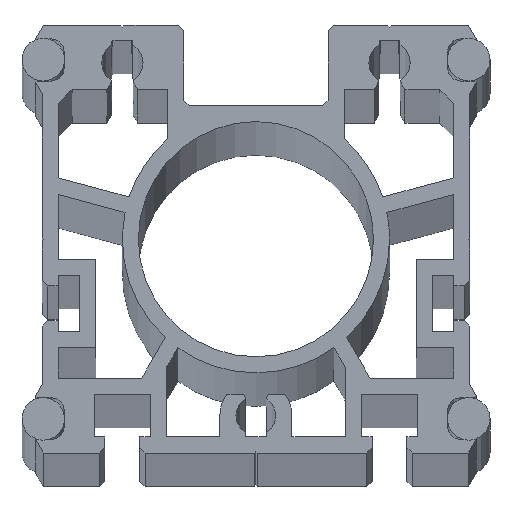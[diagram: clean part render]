
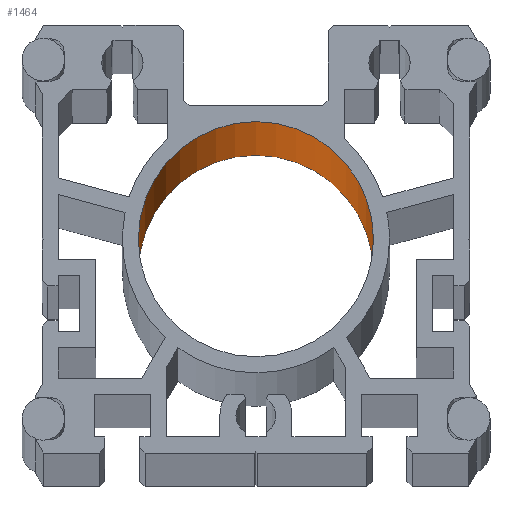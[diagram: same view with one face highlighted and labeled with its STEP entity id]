
A CAD part, top view. The second image highlights one B-rep face of the part: STEP entity #1464.
In plain terms, the highlighted cylindrical face has radius 22 mm (diameter 44 mm), a partial arc.
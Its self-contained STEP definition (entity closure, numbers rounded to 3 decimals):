
#1013 = EDGE_CURVE ( 'NONE', #1632, #1631, #6079, .T. ) ;
#1464 = ADVANCED_FACE ( 'NONE', ( #5232 ), #5229, .F. ) ;
#1465 = EDGE_LOOP ( 'NONE', ( #1466, #1467, #1468, #1469 ) ) ;
#1466 = ORIENTED_EDGE ( 'NONE', *, *, #1634, .F. ) ;
#1467 = ORIENTED_EDGE ( 'NONE', *, *, #1013, .F. ) ;
#1468 = ORIENTED_EDGE ( 'NONE', *, *, #1649, .T. ) ;
#1469 = ORIENTED_EDGE ( 'NONE', *, *, #1543, .T. ) ;
#1543 = EDGE_CURVE ( 'NONE', #1638, #1635, #5457, .T. ) ;
#1631 = VERTEX_POINT ( 'NONE', #5584 ) ;
#1632 = VERTEX_POINT ( 'NONE', #5583 ) ;
#1634 = EDGE_CURVE ( 'NONE', #1631, #1635, #5582, .T. ) ;
#1635 = VERTEX_POINT ( 'NONE', #5578 ) ;
#1638 = VERTEX_POINT ( 'NONE', #5572 ) ;
#1649 = EDGE_CURVE ( 'NONE', #1632, #1638, #5715, .T. ) ;
#5224 = DIRECTION ( 'NONE',  ( 1., 0., 0. ) ) ;
#5225 = DIRECTION ( 'NONE',  ( 0., 0., 1. ) ) ;
#5226 = CARTESIAN_POINT ( 'NONE',  ( 0., 40., -1799. ) ) ;
#5227 = AXIS2_PLACEMENT_3D ( 'NONE', #5226, #5225, #5224 ) ;
#5229 = CYLINDRICAL_SURFACE ( 'NONE', #5227, 22. ) ;
#5232 = FACE_OUTER_BOUND ( 'NONE', #1465, .T. ) ;
#5453 = DIRECTION ( 'NONE',  ( 1., 0., 0. ) ) ;
#5454 = DIRECTION ( 'NONE',  ( 0., 0., 1. ) ) ;
#5455 = CARTESIAN_POINT ( 'NONE',  ( 0., 40., 1799. ) ) ;
#5456 = AXIS2_PLACEMENT_3D ( 'NONE', #5455, #5454, #5453 ) ;
#5457 = CIRCLE ( 'NONE', #5456, 22. ) ;
#5572 = CARTESIAN_POINT ( 'NONE',  ( 22., 40., 1799. ) ) ;
#5578 = CARTESIAN_POINT ( 'NONE',  ( -22., 40., 1799. ) ) ;
#5579 = DIRECTION ( 'NONE',  ( 0., 0., 1. ) ) ;
#5580 = VECTOR ( 'NONE', #5579, 1000. ) ;
#5581 = CARTESIAN_POINT ( 'NONE',  ( -22., 40., -1799. ) ) ;
#5582 = LINE ( 'NONE', #5581, #5580 ) ;
#5583 = CARTESIAN_POINT ( 'NONE',  ( 22., 40., -1799. ) ) ;
#5584 = CARTESIAN_POINT ( 'NONE',  ( -22., 40., -1799. ) ) ;
#5712 = DIRECTION ( 'NONE',  ( 0., 0., 1. ) ) ;
#5713 = VECTOR ( 'NONE', #5712, 1000. ) ;
#5714 = CARTESIAN_POINT ( 'NONE',  ( 22., 40., -1799. ) ) ;
#5715 = LINE ( 'NONE', #5714, #5713 ) ;
#6075 = DIRECTION ( 'NONE',  ( 1., 0., 0. ) ) ;
#6076 = DIRECTION ( 'NONE',  ( 0., 0., 1. ) ) ;
#6077 = CARTESIAN_POINT ( 'NONE',  ( 0., 40., -1799. ) ) ;
#6078 = AXIS2_PLACEMENT_3D ( 'NONE', #6077, #6076, #6075 ) ;
#6079 = CIRCLE ( 'NONE', #6078, 22. ) ;
